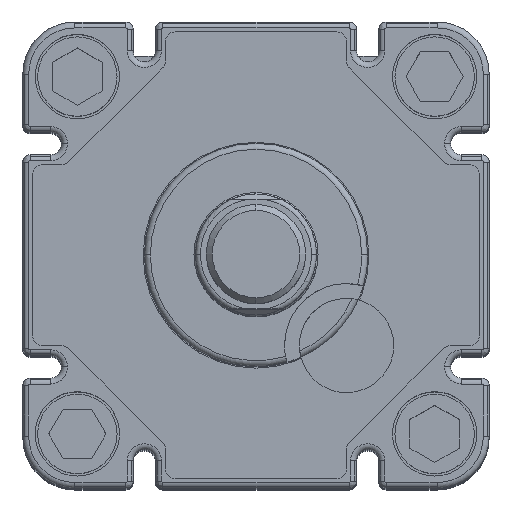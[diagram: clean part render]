
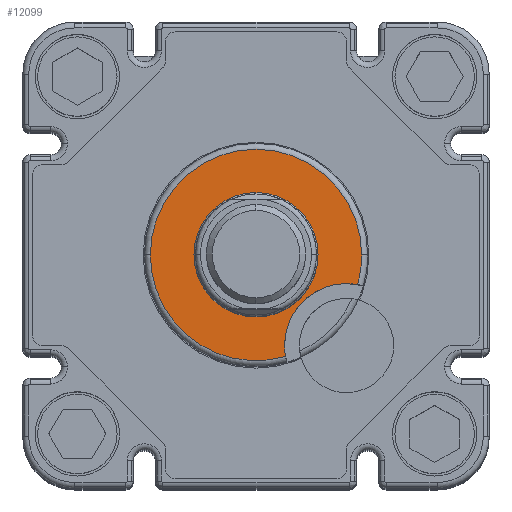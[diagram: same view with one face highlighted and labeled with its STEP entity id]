
A CAD part, top view. The second image highlights one B-rep face of the part: STEP entity #12099.
In plain terms, the highlighted planar face has unit normal (0, 0, 1).
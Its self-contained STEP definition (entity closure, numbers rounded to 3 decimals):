
#4160=CARTESIAN_POINT('',(21.3,0.,176.0));
#4161=VERTEX_POINT('',#4160);
#4169=CARTESIAN_POINT('',(20.453,-5.946,176.0));
#4170=VERTEX_POINT('',#4169);
#4171=CARTESIAN_POINT('',(0.,0.,176.0));
#4172=DIRECTION('',(0.0,0.0,-1.0));
#4173=DIRECTION('',(-1.0,0.0,0.0));
#4174=AXIS2_PLACEMENT_3D('',#4171,#4172,#4173);
#4175=CIRCLE('',#4174,21.3);
#4176=EDGE_CURVE('',#4161,#4170,#4175,.T.);
#4210=CARTESIAN_POINT('',(-21.3,0.,176.0));
#4211=VERTEX_POINT('',#4210);
#4221=CARTESIAN_POINT('',(0.,0.,176.0));
#4222=DIRECTION('',(0.0,0.0,-1.0));
#4223=DIRECTION('',(-1.0,0.0,0.0));
#4224=AXIS2_PLACEMENT_3D('',#4221,#4222,#4223);
#4225=CIRCLE('',#4224,21.3);
#4226=EDGE_CURVE('',#4211,#4161,#4225,.T.);
#5085=CARTESIAN_POINT('',(0.,12.5,176.0));
#5086=VERTEX_POINT('',#5085);
#5102=CARTESIAN_POINT('',(0.,-12.5,176.0));
#5103=VERTEX_POINT('',#5102);
#5110=CARTESIAN_POINT('',(0.,0.,176.0));
#5111=DIRECTION('',(0.0,0.0,-1.0));
#5112=DIRECTION('',(0.0,1.0,0.0));
#5113=AXIS2_PLACEMENT_3D('',#5110,#5111,#5112);
#5114=CIRCLE('',#5113,12.5);
#5115=EDGE_CURVE('',#5086,#5103,#5114,.T.);
#7098=CARTESIAN_POINT('',(5.75,-18.25,176.0));
#7099=VERTEX_POINT('',#7098);
#7108=CARTESIAN_POINT('',(5.946,-20.453,176.0));
#7109=VERTEX_POINT('',#7108);
#7110=CARTESIAN_POINT('',(18.25,-18.25,176.0));
#7111=DIRECTION('',(0.0,0.0,-1.0));
#7112=DIRECTION('',(1.0,0.0,0.0));
#7113=AXIS2_PLACEMENT_3D('',#7110,#7111,#7112);
#7114=CIRCLE('',#7113,12.5);
#7115=EDGE_CURVE('',#7109,#7099,#7114,.T.);
#7466=CARTESIAN_POINT('',(18.25,-18.25,176.0));
#7467=DIRECTION('',(0.0,0.0,-1.0));
#7468=DIRECTION('',(1.0,0.0,0.0));
#7469=AXIS2_PLACEMENT_3D('',#7466,#7467,#7468);
#7470=CIRCLE('',#7469,12.5);
#7471=EDGE_CURVE('',#7099,#4170,#7470,.T.);
#11192=CARTESIAN_POINT('',(0.,0.,176.0));
#11193=DIRECTION('',(0.0,0.0,-1.0));
#11194=DIRECTION('',(0.0,1.0,0.0));
#11195=AXIS2_PLACEMENT_3D('',#11192,#11193,#11194);
#11196=CIRCLE('',#11195,12.5);
#11197=EDGE_CURVE('',#5103,#5086,#11196,.T.);
#12073=CARTESIAN_POINT('',(0.,0.,176.0));
#12074=DIRECTION('',(0.0,0.0,-1.0));
#12075=DIRECTION('',(-1.0,0.0,0.0));
#12076=AXIS2_PLACEMENT_3D('',#12073,#12074,#12075);
#12077=CIRCLE('',#12076,21.3);
#12078=EDGE_CURVE('',#7109,#4211,#12077,.T.);
#12083=CARTESIAN_POINT('',(21.25,-21.25,176.0));
#12084=DIRECTION('',(0.0,0.0,1.0));
#12085=DIRECTION('',(1.0,0.0,0.0));
#12086=AXIS2_PLACEMENT_3D('',#12083,#12084,#12085);
#12087=PLANE('',#12086);
#12088=ORIENTED_EDGE('',*,*,#7115,.T.);
#12089=ORIENTED_EDGE('',*,*,#7471,.T.);
#12090=ORIENTED_EDGE('',*,*,#4176,.F.);
#12091=ORIENTED_EDGE('',*,*,#4226,.F.);
#12092=ORIENTED_EDGE('',*,*,#12078,.F.);
#12093=EDGE_LOOP('',(#12088,#12089,#12090,#12091,#12092));
#12094=FACE_OUTER_BOUND('',#12093,.T.);
#12095=ORIENTED_EDGE('',*,*,#5115,.T.);
#12096=ORIENTED_EDGE('',*,*,#11197,.T.);
#12097=EDGE_LOOP('',(#12095,#12096));
#12098=FACE_BOUND('',#12097,.T.);
#12099=ADVANCED_FACE('',(#12094,#12098),#12087,.T.);
